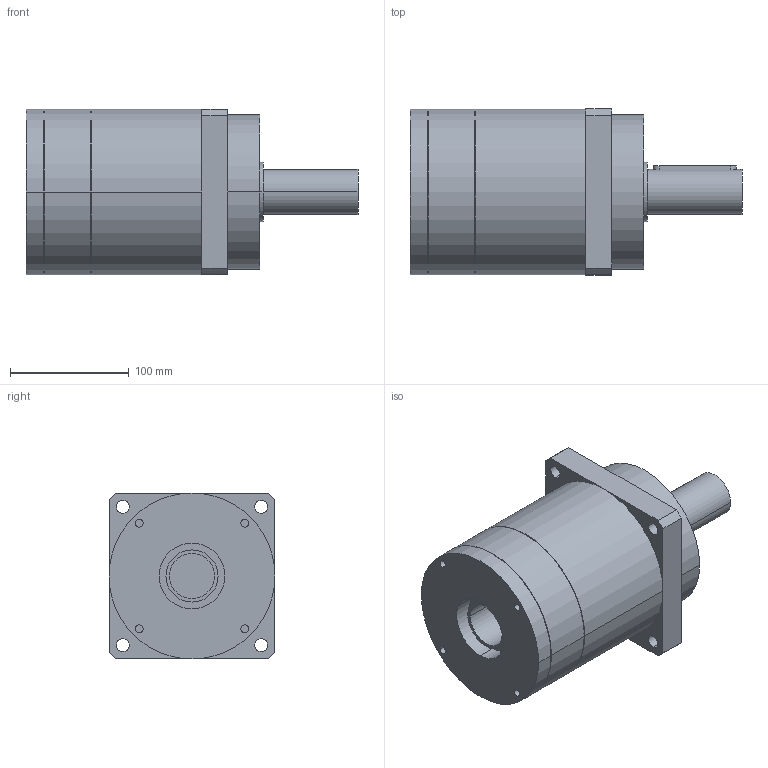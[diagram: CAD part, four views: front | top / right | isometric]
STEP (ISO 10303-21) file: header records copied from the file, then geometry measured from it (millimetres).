
FILE_DESCRIPTION(('CoCreate Modeling STEP Export'),'2;1');
FILE_NAME('GPR150_ig-3-4-5-7_38_B5_38_P01.stp','2014-08-19T16:43:24',(''),(''),'CoCreate Modeling STEP processor for AP214 (Solid Model)','CoCreate Modeling 16.00C 25-Feb-2009 (C) Parametric Technology GmbH','');
FILE_SCHEMA(('AUTOMOTIVE_DESIGN { 1 0 10303 214 1 1 1 1 }'));
Length unit declared in the file: millimetre
Products named in the file (2): GPR150_ig-3-4-5-7_38_B5_38_P01
Assembly tree (1 placements, depth 2):
  GPR150_ig-3-4-5-7_38_B5_38_P01
    GPR150_ig-3-4-5-7_38_B5_38_P01
Bounding box: 280 x 140 x 140 mm (x, y, z)
Volume: 3040864 mm3; surface area: 155713.5 mm2
Topology: 1 solids, 1 shells, 85 faces, 216 edges, 148 vertices
Faces by surface type: cylinder 50, plane 29, cone 6
Entity records: 2252 total; most frequent: ORIENTED_EDGE 428, CARTESIAN_POINT 414, DIRECTION 310, EDGE_CURVE 214, VERTEX_POINT 148, AXIS2_PLACEMENT_3D 116, EDGE_LOOP 110, FACE_OUTER_BOUND 85
